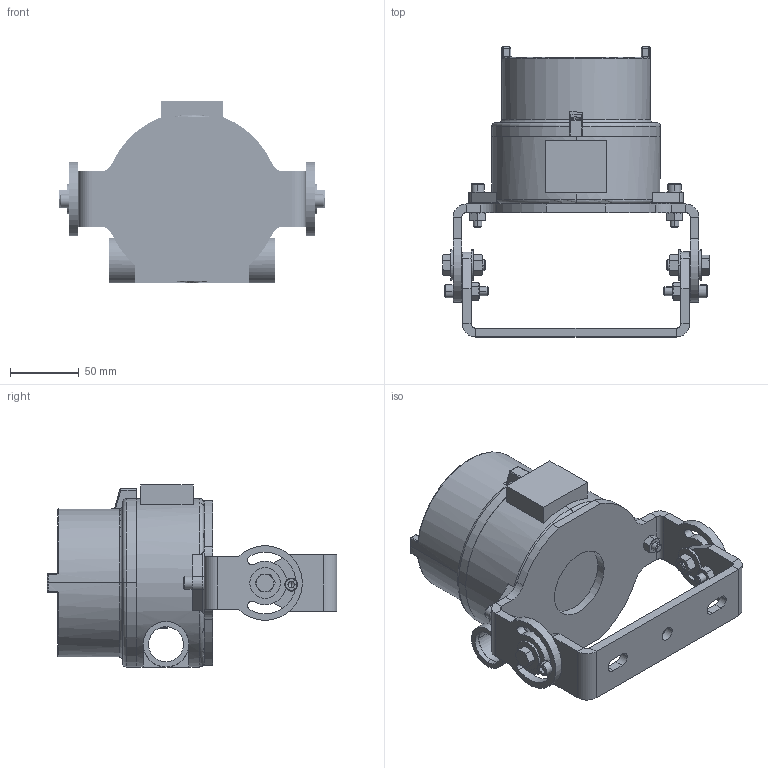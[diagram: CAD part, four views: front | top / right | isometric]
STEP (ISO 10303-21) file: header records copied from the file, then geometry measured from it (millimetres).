
FILE_DESCRIPTION (( 'STEP AP203' ), '1' );
FILE_NAME ('EXP-MS-N4X-AT-HV-NO-220V-0.75IN.STEP', '2025-08-07T15:27:10', ( '' ), ( '' ), 'SwSTEP 2.0', 'SolidWorks 2020', '' );
FILE_SCHEMA (( 'CONFIG_CONTROL_DESIGN' ));
Length unit declared in the file: inch
Products named in the file (18): FAB00000637-2_EXPCMR-2; 90631A411_Low-Strength Steel Nylon-Insert Locknut (3)_90631A411; 92141A011_18-8 Stainless Steel Washer (1)_92141A011; hex nut_ai_HNUT 0.2500-20-D-N; EXPCMR-ALG-1080P-12V_Back Handle; FAB00001038; hex bolt_ai_HBOLT 0.3125-18x1x0.875-N; Cover_No Glass; flat washer type b regular_ai_Regular FW 0.3125; FAB00000637_Vertical; FAB00000637-1_EXPCMR-1; Sensor; EXP-MS-N4X-AT-HV-NO-220V-0.75IN; socket head cap screw_ai_HX-SHCS 0.25-20x1x1-N; Base_Base; 92562A136_Mil. Spec. Alloy Steel Socket Head Screw_92562A136; hex nut_ai_HNUT 0.3125-18-D-N; FAB00001038_NOT SLOTTED
Assembly tree (37 placements, depth 4):
  EXP-MS-N4X-AT-HV-NO-220V-0.75IN
    EXPCMR-ALG-1080P-12V_Back Handle
      Base_Base
      Cover_No Glass
      hex nut_ai_HNUT 0.2500-20-D-N  x2
      socket head cap screw_ai_HX-SHCS 0.25-20x1x1-N  x2
      FAB00000637_Vertical
        FAB00000637-2_EXPCMR-2
        FAB00000637-1_EXPCMR-1
        flat washer type b regular_ai_Regular FW 0.3125  x4
        hex nut_ai_HNUT 0.3125-18-D-N  x2
        hex bolt_ai_HBOLT 0.3125-18x1x0.875-N  x2
        hex nut_ai_HNUT 0.2500-20-D-N  x2
        socket head cap screw_ai_HX-SHCS 0.25-20x1x1-N  x2
    FAB00001038_NOT SLOTTED
    FAB00001038
    92562A136_Mil. Spec. Alloy Steel Socket Head Screw_92562A136  x4
    92141A011_18-8 Stainless Steel Washer (1)_92141A011  x4
    90631A411_Low-Strength Steel Nylon-Insert Locknut (3)_90631A411  x4
    Sensor
Bounding box: 193.63 x 210.48 x 132.12 mm (x, y, z)
Volume: 763762.6 mm3; surface area: 284053.9 mm2
Topology: 40 solids, 40 shells, 2249 faces, 5620 edges, 3503 vertices
Faces by surface type: cylinder 1061, plane 654, cone 386, torus 116, sphere 18, bspline 14
Entity records: 44241 total; most frequent: CARTESIAN_POINT 14086, ORIENTED_EDGE 5886, DIRECTION 5716, EDGE_CURVE 2943, AXIS2_PLACEMENT_3D 2069, VERTEX_POINT 1853, VECTOR 1578, LINE 1578
